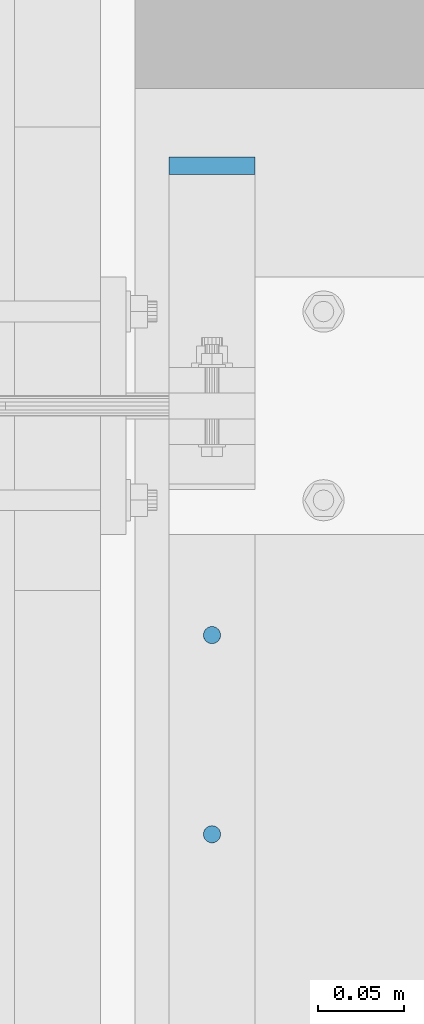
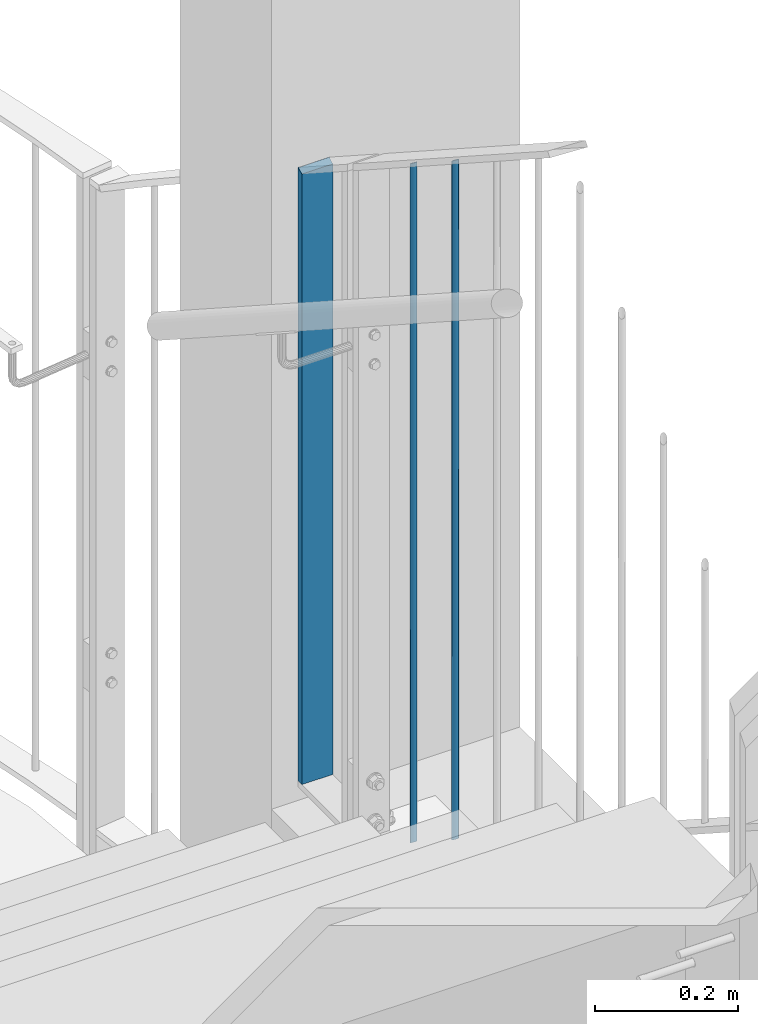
# One storey, part 82 of 296: 3 columns.
"""IFC2X3 building model written with IfcOpenShell, lengths in millimetres."""

from ifc_helpers import new_model, entity, si_unit, converted_unit, frame, origin, origin_with_axes, origin_2d, place, context, project, spatial, rectangle, circle, extrude, clip, halfspace, material, element, save


model = new_model("IFC2X3")

# Units and contexts
model_context = context("Model", 3, precision=1e-09, world=origin_with_axes())
ifc_project = project(units=[si_unit("LENGTHUNIT", "METRE", prefix="MILLI"), si_unit("AREAUNIT", "SQUARE_METRE"), si_unit("VOLUMEUNIT", "CUBIC_METRE"), converted_unit("PLANEANGLEUNIT", "DEGREE", entity("IfcPlaneAngleMeasure", 0.01745329), si_unit("PLANEANGLEUNIT", "RADIAN"), dimensions=[0, 0, 0, 0, 0, 0, 0])], contexts=[model_context])

# Site, building, storey
site_placement = place(None, origin_with_axes())
site = spatial("IfcSite", under=ifc_project, at=site_placement, Name="TZD-S?d | Treppenhausgel?nder", CompositionType="ELEMENT")
building_placement = place(site_placement, origin_with_axes())
building = spatial("IfcBuilding", under=site, at=building_placement, Name="Struktur 1", CompositionType="ELEMENT")
storey_placement = place(building_placement, origin_with_axes())
storey = spatial("IfcBuildingStorey", under=building, at=storey_placement, Name="Default Storey", CompositionType="ELEMENT", Elevation=0.0)

# Columns
ifc_material = material(Name="S235JR")
column_1_placement = place(None, frame((5894.999, -300.0, 2869.999), z_axis=(0.0, 0.0, -1.0), x_axis=(0.0, 1.0, 0.0)))
element("IfcColumn", 1, at=column_1_placement, inside=storey, material=ifc_material, Name="-", ObjectType="-", context=model_context, shape_type="Clipping", body=[
    clip(extrude(rectangle(XDim=10.0, YDim=50.0, at=origin_2d()), origin(), (0.0, 0.0, -1.0), 1071.129460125), halfspace(frame((-1411.166892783, -5894.999, -274.071273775), z_axis=(0.478037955, 0.0, 0.878339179), x_axis=(0.0, -1.0, 0.0)), True)),
])
column_2_placement = place(None, frame((5894.999, -689.7222223, 2987.570872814), z_axis=(0.0, 0.0, -1.0), x_axis=(0.0, 1.0, 0.0)))
element("IfcColumn", 2, at=column_2_placement, inside=storey, material=ifc_material, Name="-", ObjectType="-", context=model_context, shape_type="Clipping", body=[
    clip(clip(extrude(circle(Radius=5.0, at=origin_2d()), origin(), (0.0, 0.0, -1.0), 1184.932529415), halfspace(frame((2382.307965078, -5894.999, 369.762025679), z_axis=(-0.542959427, 0.0, 0.83975893), x_axis=(0.0, 1.0, 0.0)), True)), halfspace(frame((1855.141306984, -5894.999, 1185.095338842), z_axis=(0.542959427, 0.0, -0.83975893), x_axis=(0.0, -1.0, 0.0)), True)),
])
column_3_placement = place(None, frame((5894.999, -573.6111112, 2912.497396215), z_axis=(0.0, 0.0, -1.0), x_axis=(0.0, 1.0, 0.0)))
element("IfcColumn", 3, at=column_3_placement, inside=storey, material=ifc_material, Name="-", ObjectType="-", context=model_context, shape_type="Clipping", body=[
    clip(clip(extrude(circle(Radius=5.0, at=origin_2d()), origin(), (0.0, 0.0, -1.0), 1184.932529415), halfspace(frame((2266.196853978, -5894.999, 294.68854908), z_axis=(-0.542959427, 0.0, 0.83975893), x_axis=(0.0, 1.0, 0.0)), True)), halfspace(frame((1739.030195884, -5894.999, 1110.021862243), z_axis=(0.542959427, 0.0, -0.83975893), x_axis=(0.0, -1.0, 0.0)), True)),
])

save(model, "model.ifc")
